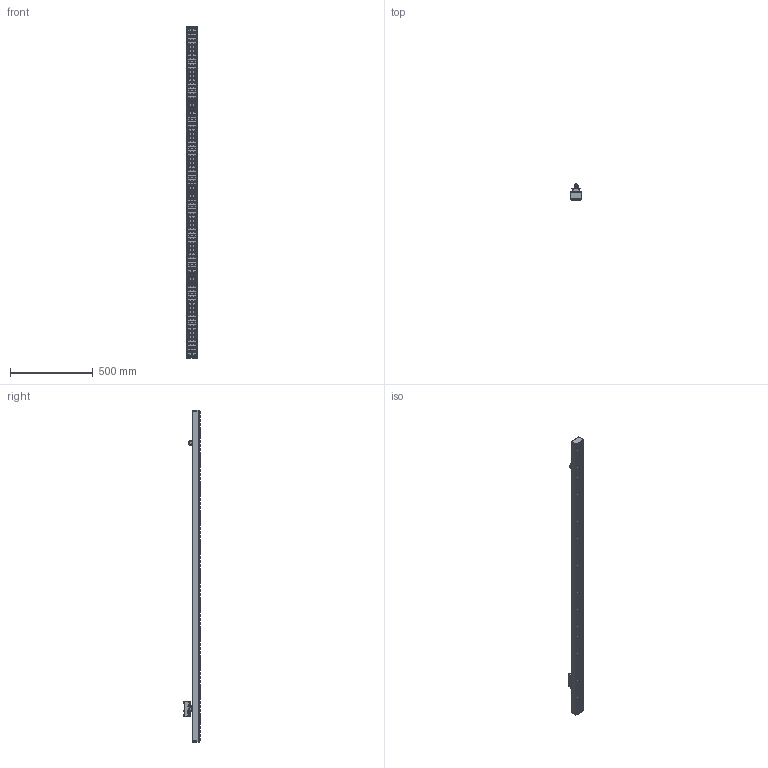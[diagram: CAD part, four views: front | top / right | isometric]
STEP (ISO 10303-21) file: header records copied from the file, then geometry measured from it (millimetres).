
FILE_DESCRIPTION(/* description */ (''),/* implementation_level */ '2;1');
FILE_NAME(/* name */ 'LUMI_TRACK_LUT20.stp',/* time_stamp */ '2025-10-01T15:38:49+02:00',/* author */ ('gian.noche'),/* organization */ (''),/* preprocessor_version */ 'ST-DEVELOPER v19.2',/* originating_system */ 'Autodesk Inventor 2023',/* authorisation */ '');
FILE_SCHEMA (('AUTOMOTIVE_DESIGN { 1 0 10303 214 3 1 1 }'));
Products named in the file (1): IDP_27_BINGO_LUMI_SYSTEM_2000_Semplifica_1
Bounding box: 65 x 101.75 x 2001 mm (x, y, z)
Volume: 935883.6 mm3; surface area: 726051.5 mm2
Topology: 3 solids, 3 shells, 1697 faces, 4037 edges, 2609 vertices
Faces by surface type: plane 777, cylinder 531, torus 263, bspline 116, cone 10
Full cylindrical faces by diameter (mm): 4.4 x3, 4.5 x3, 11.5 x1, 15 x240, 23.319 x1, 24.8 x2, 32 x1
Entity records: 57504 total; most frequent: CARTESIAN_POINT 16652, DIRECTION 9297, ORIENTED_EDGE 8070, EDGE_CURVE 4035, AXIS2_PLACEMENT_3D 3744, VERTEX_POINT 2609, EDGE_LOOP 1966, LINE 1809
